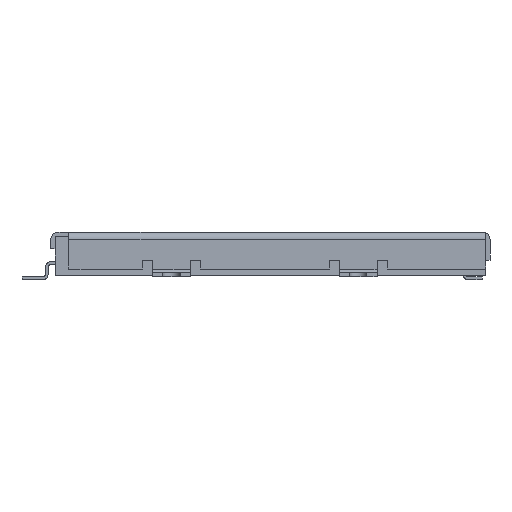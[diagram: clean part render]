
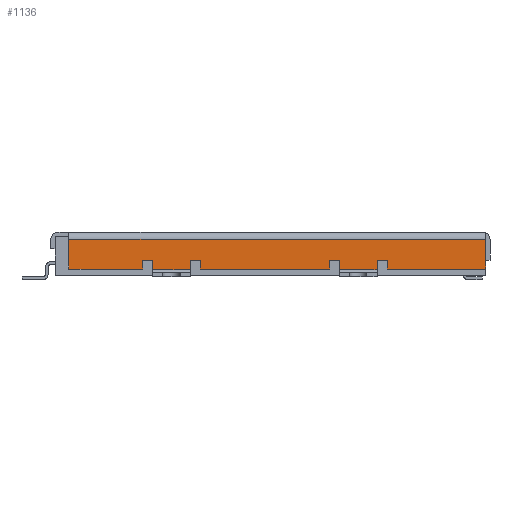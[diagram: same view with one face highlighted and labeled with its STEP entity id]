
A CAD part, left-side view. The second image highlights one B-rep face of the part: STEP entity #1136.
In plain terms, the highlighted planar face has unit normal (-1, 0, 0).
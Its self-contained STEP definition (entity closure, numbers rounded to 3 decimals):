
#1136=ADVANCED_FACE('',(#2318),#19232,.T.);
#2318=FACE_OUTER_BOUND('',#3550,.T.);
#3550=EDGE_LOOP('',(#6627,#6628,#6629,#6630,#6631,#6632,#6633,#6634,#6635,
#6636,#6637,#6638,#6639,#6640,#6641,#6642,#6643,#6644,#6645,#6646));
#6627=ORIENTED_EDGE('',*,*,#11482,.T.);
#6628=ORIENTED_EDGE('',*,*,#11457,.T.);
#6629=ORIENTED_EDGE('',*,*,#11479,.F.);
#6630=ORIENTED_EDGE('',*,*,#11497,.F.);
#6631=ORIENTED_EDGE('',*,*,#11474,.T.);
#6632=ORIENTED_EDGE('',*,*,#11463,.T.);
#6633=ORIENTED_EDGE('',*,*,#11483,.T.);
#6634=ORIENTED_EDGE('',*,*,#11438,.T.);
#6635=ORIENTED_EDGE('',*,*,#11484,.T.);
#6636=ORIENTED_EDGE('',*,*,#11485,.T.);
#6637=ORIENTED_EDGE('',*,*,#11486,.T.);
#6638=ORIENTED_EDGE('',*,*,#11487,.T.);
#6639=ORIENTED_EDGE('',*,*,#11488,.T.);
#6640=ORIENTED_EDGE('',*,*,#11489,.T.);
#6641=ORIENTED_EDGE('',*,*,#11490,.T.);
#6642=ORIENTED_EDGE('',*,*,#11434,.T.);
#6643=ORIENTED_EDGE('',*,*,#11491,.T.);
#6644=ORIENTED_EDGE('',*,*,#11492,.T.);
#6645=ORIENTED_EDGE('',*,*,#11493,.T.);
#6646=ORIENTED_EDGE('',*,*,#11494,.T.);
#11434=EDGE_CURVE('',#17143,#17141,#14692,.T.);
#11438=EDGE_CURVE('',#17147,#17145,#14696,.T.);
#11457=EDGE_CURVE('',#17165,#17166,#14715,.T.);
#11463=EDGE_CURVE('',#17172,#17171,#14721,.T.);
#11474=EDGE_CURVE('',#17180,#17172,#14732,.T.);
#11479=EDGE_CURVE('',#17184,#17166,#14737,.T.);
#11482=EDGE_CURVE('',#17187,#17165,#14740,.T.);
#11483=EDGE_CURVE('',#17171,#17147,#14741,.T.);
#11484=EDGE_CURVE('',#17145,#17188,#14742,.T.);
#11485=EDGE_CURVE('',#17188,#17189,#14743,.T.);
#11486=EDGE_CURVE('',#17189,#17190,#14744,.T.);
#11487=EDGE_CURVE('',#17190,#17191,#14745,.T.);
#11488=EDGE_CURVE('',#17191,#17192,#14746,.T.);
#11489=EDGE_CURVE('',#17192,#17193,#14747,.T.);
#11490=EDGE_CURVE('',#17193,#17143,#14748,.T.);
#11491=EDGE_CURVE('',#17141,#17194,#14749,.T.);
#11492=EDGE_CURVE('',#17194,#17195,#14750,.T.);
#11493=EDGE_CURVE('',#17195,#17196,#14751,.T.);
#11494=EDGE_CURVE('',#17196,#17187,#14752,.T.);
#11497=EDGE_CURVE('',#17180,#17184,#14753,.T.);
#14692=B_SPLINE_CURVE_WITH_KNOTS('',1,(#31104,#31105),.UNSPECIFIED.,.F.,
 .F.,(2,2),(-0.35,0.),.UNSPECIFIED.);
#14696=B_SPLINE_CURVE_WITH_KNOTS('',1,(#31112,#31113),.UNSPECIFIED.,.F.,
 .F.,(2,2),(-0.35,0.),.UNSPECIFIED.);
#14715=B_SPLINE_CURVE_WITH_KNOTS('',1,(#31150,#31151),.UNSPECIFIED.,.F.,
 .F.,(2,2),(-3.43,0.),.UNSPECIFIED.);
#14721=B_SPLINE_CURVE_WITH_KNOTS('',1,(#31162,#31163),.UNSPECIFIED.,.F.,
 .F.,(2,2),(-2.57,0.),.UNSPECIFIED.);
#14732=B_SPLINE_CURVE_WITH_KNOTS('',1,(#31184,#31185),.UNSPECIFIED.,.F.,
 .F.,(2,2),(-1.029,0.),.UNSPECIFIED.);
#14737=B_SPLINE_CURVE_WITH_KNOTS('',1,(#31194,#31195),.UNSPECIFIED.,.F.,
 .F.,(2,2),(0.,1.029),.UNSPECIFIED.);
#14740=B_SPLINE_CURVE_WITH_KNOTS('',1,(#31200,#31201),.UNSPECIFIED.,.F.,
 .F.,(2,2),(0.,0.3),.UNSPECIFIED.);
#14741=B_SPLINE_CURVE_WITH_KNOTS('',1,(#31202,#31203),.UNSPECIFIED.,.F.,
 .F.,(2,2),(0.,0.3),.UNSPECIFIED.);
#14742=B_SPLINE_CURVE_WITH_KNOTS('',1,(#31204,#31205),.UNSPECIFIED.,.F.,
 .F.,(2,2),(0.,0.321),.UNSPECIFIED.);
#14743=B_SPLINE_CURVE_WITH_KNOTS('',1,(#31206,#31207),.UNSPECIFIED.,.F.,
 .F.,(2,2),(0.,1.3),.UNSPECIFIED.);
#14744=B_SPLINE_CURVE_WITH_KNOTS('',1,(#31208,#31209),.UNSPECIFIED.,.F.,
 .F.,(2,2),(0.,0.321),.UNSPECIFIED.);
#14745=B_SPLINE_CURVE_WITH_KNOTS('',1,(#31210,#31211),.UNSPECIFIED.,.F.,
 .F.,(2,2),(0.,0.35),.UNSPECIFIED.);
#14746=B_SPLINE_CURVE_WITH_KNOTS('',1,(#31212,#31213),.UNSPECIFIED.,.F.,
 .F.,(2,2),(0.,0.3),.UNSPECIFIED.);
#14747=B_SPLINE_CURVE_WITH_KNOTS('',1,(#31214,#31215),.UNSPECIFIED.,.F.,
 .F.,(2,2),(0.,4.5),.UNSPECIFIED.);
#14748=B_SPLINE_CURVE_WITH_KNOTS('',1,(#31216,#31217),.UNSPECIFIED.,.F.,
 .F.,(2,2),(0.,0.3),.UNSPECIFIED.);
#14749=B_SPLINE_CURVE_WITH_KNOTS('',1,(#31218,#31219),.UNSPECIFIED.,.F.,
 .F.,(2,2),(0.,0.321),.UNSPECIFIED.);
#14750=B_SPLINE_CURVE_WITH_KNOTS('',1,(#31220,#31221),.UNSPECIFIED.,.F.,
 .F.,(2,2),(0.,1.3),.UNSPECIFIED.);
#14751=B_SPLINE_CURVE_WITH_KNOTS('',1,(#31222,#31223),.UNSPECIFIED.,.F.,
 .F.,(2,2),(0.,0.321),.UNSPECIFIED.);
#14752=B_SPLINE_CURVE_WITH_KNOTS('',1,(#31224,#31225),.UNSPECIFIED.,.F.,
 .F.,(2,2),(0.,0.35),.UNSPECIFIED.);
#14753=B_SPLINE_CURVE_WITH_KNOTS('',1,(#31232,#31233),.UNSPECIFIED.,.F.,
 .F.,(2,2),(0.,14.5),.UNSPECIFIED.);
#17141=VERTEX_POINT('',#30544);
#17143=VERTEX_POINT('',#30546);
#17145=VERTEX_POINT('',#30548);
#17147=VERTEX_POINT('',#30550);
#17165=VERTEX_POINT('',#30568);
#17166=VERTEX_POINT('',#30569);
#17171=VERTEX_POINT('',#30574);
#17172=VERTEX_POINT('',#30575);
#17180=VERTEX_POINT('',#30583);
#17184=VERTEX_POINT('',#30587);
#17187=VERTEX_POINT('',#30590);
#17188=VERTEX_POINT('',#30591);
#17189=VERTEX_POINT('',#30592);
#17190=VERTEX_POINT('',#30593);
#17191=VERTEX_POINT('',#30594);
#17192=VERTEX_POINT('',#30595);
#17193=VERTEX_POINT('',#30596);
#17194=VERTEX_POINT('',#30597);
#17195=VERTEX_POINT('',#30598);
#17196=VERTEX_POINT('',#30599);
#19232=PLANE('',#19750);
#19750=AXIS2_PLACEMENT_3D('',#28496,#20251,$);
#20251=DIRECTION('',(-1.,0.,0.));
#28496=CARTESIAN_POINT('',(-7.475,7.135,-7.31));
#30544=CARTESIAN_POINT('',(-7.475,-3.735,-8.144));
#30546=CARTESIAN_POINT('',(-7.475,-3.385,-8.144));
#30548=CARTESIAN_POINT('',(-7.475,2.765,-8.144));
#30550=CARTESIAN_POINT('',(-7.475,3.115,-8.144));
#30568=CARTESIAN_POINT('',(-7.475,-5.385,-8.444));
#30569=CARTESIAN_POINT('',(-7.475,-8.815,-8.444));
#30574=CARTESIAN_POINT('',(-7.475,3.115,-8.444));
#30575=CARTESIAN_POINT('',(-7.475,5.685,-8.444));
#30583=CARTESIAN_POINT('',(-7.475,5.685,-7.415));
#30587=CARTESIAN_POINT('',(-7.475,-8.815,-7.415));
#30590=CARTESIAN_POINT('',(-7.475,-5.385,-8.144));
#30591=CARTESIAN_POINT('',(-7.475,2.765,-8.465));
#30592=CARTESIAN_POINT('',(-7.475,1.465,-8.465));
#30593=CARTESIAN_POINT('',(-7.475,1.465,-8.144));
#30594=CARTESIAN_POINT('',(-7.475,1.115,-8.144));
#30595=CARTESIAN_POINT('',(-7.475,1.115,-8.444));
#30596=CARTESIAN_POINT('',(-7.475,-3.385,-8.444));
#30597=CARTESIAN_POINT('',(-7.475,-3.735,-8.465));
#30598=CARTESIAN_POINT('',(-7.475,-5.035,-8.465));
#30599=CARTESIAN_POINT('',(-7.475,-5.035,-8.144));
#31104=CARTESIAN_POINT('',(-7.475,-3.385,-8.144));
#31105=CARTESIAN_POINT('',(-7.475,-3.735,-8.144));
#31112=CARTESIAN_POINT('',(-7.475,3.115,-8.144));
#31113=CARTESIAN_POINT('',(-7.475,2.765,-8.144));
#31150=CARTESIAN_POINT('',(-7.475,-5.385,-8.444));
#31151=CARTESIAN_POINT('',(-7.475,-8.815,-8.444));
#31162=CARTESIAN_POINT('',(-7.475,5.685,-8.444));
#31163=CARTESIAN_POINT('',(-7.475,3.115,-8.444));
#31184=CARTESIAN_POINT('',(-7.475,5.685,-7.415));
#31185=CARTESIAN_POINT('',(-7.475,5.685,-8.444));
#31194=CARTESIAN_POINT('',(-7.475,-8.815,-7.415));
#31195=CARTESIAN_POINT('',(-7.475,-8.815,-8.444));
#31200=CARTESIAN_POINT('',(-7.475,-5.385,-8.144));
#31201=CARTESIAN_POINT('',(-7.475,-5.385,-8.444));
#31202=CARTESIAN_POINT('',(-7.475,3.115,-8.444));
#31203=CARTESIAN_POINT('',(-7.475,3.115,-8.144));
#31204=CARTESIAN_POINT('',(-7.475,2.765,-8.144));
#31205=CARTESIAN_POINT('',(-7.475,2.765,-8.465));
#31206=CARTESIAN_POINT('',(-7.475,2.765,-8.465));
#31207=CARTESIAN_POINT('',(-7.475,1.465,-8.465));
#31208=CARTESIAN_POINT('',(-7.475,1.465,-8.465));
#31209=CARTESIAN_POINT('',(-7.475,1.465,-8.144));
#31210=CARTESIAN_POINT('',(-7.475,1.465,-8.144));
#31211=CARTESIAN_POINT('',(-7.475,1.115,-8.144));
#31212=CARTESIAN_POINT('',(-7.475,1.115,-8.144));
#31213=CARTESIAN_POINT('',(-7.475,1.115,-8.444));
#31214=CARTESIAN_POINT('',(-7.475,1.115,-8.444));
#31215=CARTESIAN_POINT('',(-7.475,-3.385,-8.444));
#31216=CARTESIAN_POINT('',(-7.475,-3.385,-8.444));
#31217=CARTESIAN_POINT('',(-7.475,-3.385,-8.144));
#31218=CARTESIAN_POINT('',(-7.475,-3.735,-8.144));
#31219=CARTESIAN_POINT('',(-7.475,-3.735,-8.465));
#31220=CARTESIAN_POINT('',(-7.475,-3.735,-8.465));
#31221=CARTESIAN_POINT('',(-7.475,-5.035,-8.465));
#31222=CARTESIAN_POINT('',(-7.475,-5.035,-8.465));
#31223=CARTESIAN_POINT('',(-7.475,-5.035,-8.144));
#31224=CARTESIAN_POINT('',(-7.475,-5.035,-8.144));
#31225=CARTESIAN_POINT('',(-7.475,-5.385,-8.144));
#31232=CARTESIAN_POINT('',(-7.475,5.685,-7.415));
#31233=CARTESIAN_POINT('',(-7.475,-8.815,-7.415));
